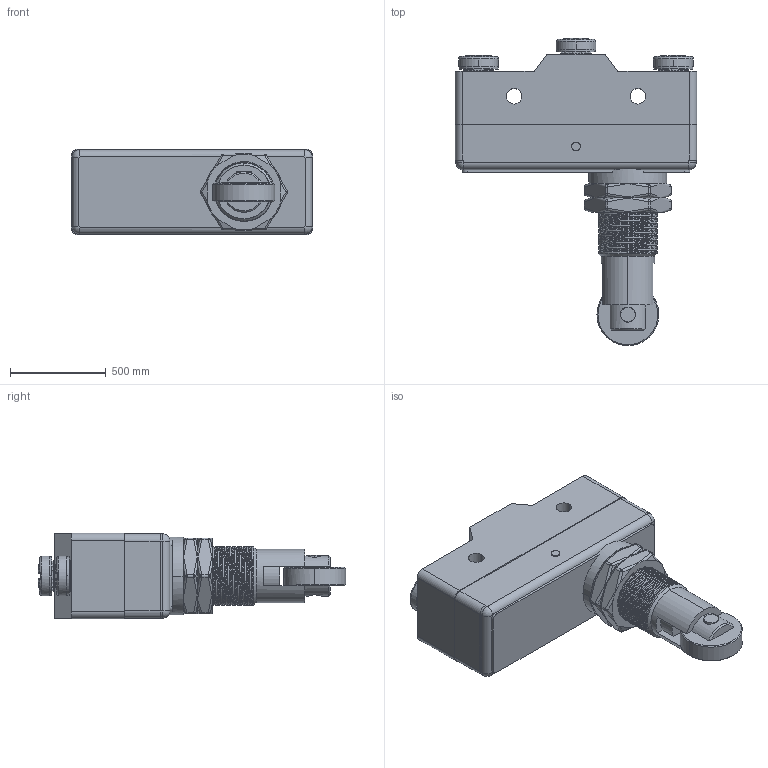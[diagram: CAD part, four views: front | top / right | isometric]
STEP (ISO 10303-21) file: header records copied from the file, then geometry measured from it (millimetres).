
FILE_DESCRIPTION((''),'2;1');
FILE_NAME('PRT0012','2016-08-17T',('ABS'),(''),'PRO/ENGINEER BY PARAMETRIC TECHNOLOGY CORPORATION, 2012360','PRO/ENGINEER BY PARAMETRIC TECHNOLOGY CORPORATION, 2012360','');
FILE_SCHEMA(('CONFIG_CONTROL_DESIGN'));
Products named in the file (1): PRT0012
Bounding box: 1259.84 x 1601.13 x 447.04 mm (x, y, z)
Volume: 280350407.3 mm3; surface area: 8129364.5 mm2
Topology: 1 solids, 13 shells, 1137 faces, 3147 edges, 2029 vertices
Faces by surface type: cylinder 679, plane 281, bspline 84, sphere 43, torus 39, cone 11
Entity records: 51366 total; most frequent: CARTESIAN_POINT 23088, ORIENTED_EDGE 6234, DIRECTION 5627, EDGE_CURVE 3117, AXIS2_PLACEMENT_3D 2172, VERTEX_POINT 2029, VECTOR 1283, LINE 1283
